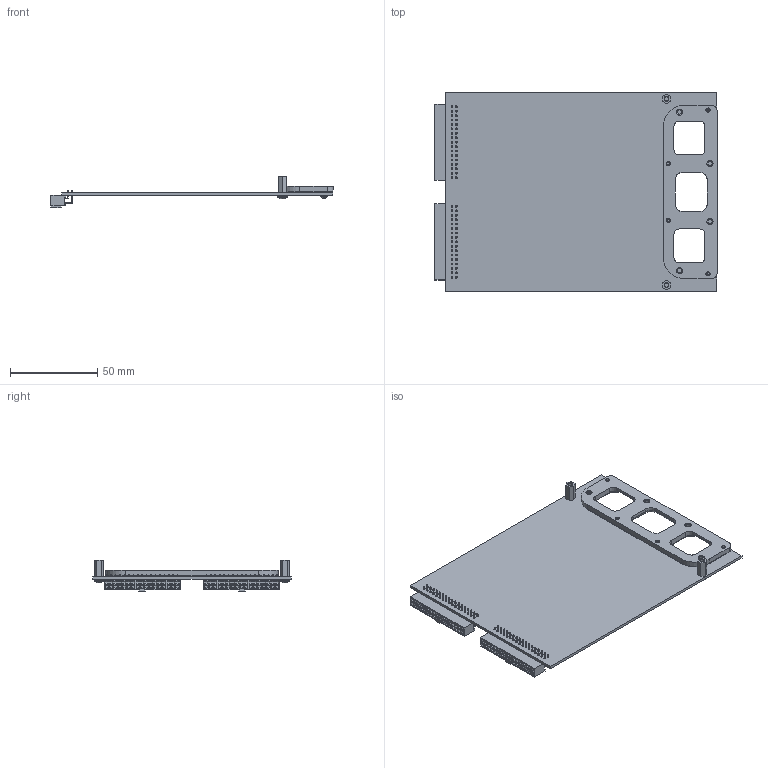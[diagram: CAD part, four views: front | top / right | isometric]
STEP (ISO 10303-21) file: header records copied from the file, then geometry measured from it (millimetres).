
FILE_DESCRIPTION((''),'2;1');
FILE_NAME('CCA_MXP_MINI_DUAL_02_ASM','2016-08-01T',('llai'),(''),'CREO PARAMETRIC BY PTC INC, 2015380','CREO PARAMETRIC BY PTC INC, 2015380','');
FILE_SCHEMA(('CONFIG_CONTROL_DESIGN'));
Length unit declared in the file: inch
Products named in the file (7): PCB_MXP_MINI_DUAL_02; CONN_RCPT_2X17_RA_TH_KEY; STANDOFF_HEX_F-F_SS_4-40; PNH_PHIL_440X0250_NYL; CLIP_MXP_ADAPTER_15A_DRAFTED; SCREW_2-28X188_PLASTITE_PNH_PHL; CCA_MXP_MINI_DUAL_02_ASM
Assembly tree (12 placements, depth 2):
  CCA_MXP_MINI_DUAL_02_ASM
    PCB_MXP_MINI_DUAL_02
    CONN_RCPT_2X17_RA_TH_KEY  x2
    STANDOFF_HEX_F-F_SS_4-40  x2
    PNH_PHIL_440X0250_NYL  x2
    CLIP_MXP_ADAPTER_15A_DRAFTED
    SCREW_2-28X188_PLASTITE_PNH_PHL  x4
Bounding box: 161.86 x 113.79 x 18.2 mm (x, y, z)
Volume: 35307.9 mm3; surface area: 44654.6 mm2
Topology: 12 solids, 14 shells, 2288 faces, 5814 edges, 3658 vertices
Faces by surface type: plane 1458, cylinder 510, bspline 164, cone 104, torus 36, sphere 16
Entity records: 43102 total; most frequent: CARTESIAN_POINT 12751, ORIENTED_EDGE 6300, DIRECTION 6020, EDGE_CURVE 3152, VECTOR 2176, LINE 2176, VERTEX_POINT 2009, AXIS2_PLACEMENT_3D 1922
